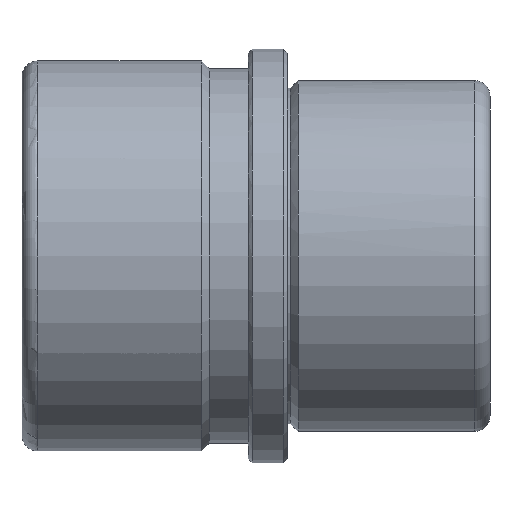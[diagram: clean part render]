
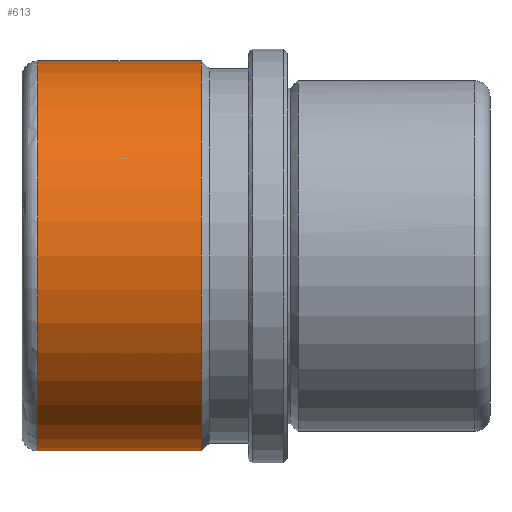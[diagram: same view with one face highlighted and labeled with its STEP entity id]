
A CAD part, front view. The second image highlights one B-rep face of the part: STEP entity #613.
In plain terms, the highlighted cylindrical face has radius 25 mm (diameter 50 mm), a partial arc.
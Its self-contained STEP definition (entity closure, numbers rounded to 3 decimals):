
#398=CARTESIAN_POINT('Line Origine',(26.,0.,25.)) ;
#402=CARTESIAN_POINT('Vertex',(-11.,0.,25.)) ;
#404=CARTESIAN_POINT('Vertex',(-32.,0.,25.)) ;
#418=CARTESIAN_POINT('Vertex',(-11.,0.,-25.)) ;
#421=CARTESIAN_POINT('Line Origine',(26.,0.,-25.)) ;
#425=CARTESIAN_POINT('Vertex',(-32.,0.,-25.)) ;
#576=CARTESIAN_POINT('Axis2P3D Location',(26.,0.,0.)) ;
#581=CARTESIAN_POINT('Axis2P3D Location',(-11.,0.,0.)) ;
#585=CARTESIAN_POINT('Vertex',(-11.,-25.,0.)) ;
#588=CARTESIAN_POINT('Axis2P3D Location',(-11.,0.,0.)) ;
#593=CARTESIAN_POINT('Axis2P3D Location',(-32.,0.,0.)) ;
#597=CARTESIAN_POINT('Vertex',(-32.,-25.,0.)) ;
#600=CARTESIAN_POINT('Axis2P3D Location',(-32.,0.,0.)) ;
#399=DIRECTION('Vector Direction',(-1.,0.,0.)) ;
#422=DIRECTION('Vector Direction',(-1.,0.,0.)) ;
#577=DIRECTION('Axis2P3D Direction',(-1.,-0.,-0.)) ;
#578=DIRECTION('Axis2P3D XDirection',(0.,0.,-1.)) ;
#582=DIRECTION('Axis2P3D Direction',(-1.,-0.,-0.)) ;
#589=DIRECTION('Axis2P3D Direction',(-1.,-0.,-0.)) ;
#594=DIRECTION('Axis2P3D Direction',(-1.,-0.,-0.)) ;
#601=DIRECTION('Axis2P3D Direction',(-1.,-0.,-0.)) ;
#579=AXIS2_PLACEMENT_3D('Cylinder Axis2P3D',#576,#577,#578) ;
#583=AXIS2_PLACEMENT_3D('Circle Axis2P3D',#581,#582,$) ;
#590=AXIS2_PLACEMENT_3D('Circle Axis2P3D',#588,#589,$) ;
#595=AXIS2_PLACEMENT_3D('Circle Axis2P3D',#593,#594,$) ;
#602=AXIS2_PLACEMENT_3D('Circle Axis2P3D',#600,#601,$) ;
#606=ORIENTED_EDGE('',*,*,#427,.T.) ;
#607=ORIENTED_EDGE('',*,*,#587,.F.) ;
#608=ORIENTED_EDGE('',*,*,#592,.F.) ;
#609=ORIENTED_EDGE('',*,*,#406,.T.) ;
#610=ORIENTED_EDGE('',*,*,#599,.T.) ;
#611=ORIENTED_EDGE('',*,*,#604,.T.) ;
#400=VECTOR('Line Direction',#399,1.) ;
#423=VECTOR('Line Direction',#422,1.) ;
#613=ADVANCED_FACE('CF 641 30 x 60',(#612),#580,.T.) ;
#584=CIRCLE('generated circle',#583,25.) ;
#591=CIRCLE('generated circle',#590,25.) ;
#596=CIRCLE('generated circle',#595,25.) ;
#603=CIRCLE('generated circle',#602,25.) ;
#580=CYLINDRICAL_SURFACE('generated cylinder',#579,25.) ;
#406=EDGE_CURVE('',#403,#405,#401,.T.) ;
#427=EDGE_CURVE('',#426,#419,#424,.F.) ;
#587=EDGE_CURVE('',#586,#419,#584,.F.) ;
#592=EDGE_CURVE('',#403,#586,#591,.F.) ;
#599=EDGE_CURVE('',#405,#598,#596,.F.) ;
#604=EDGE_CURVE('',#598,#426,#603,.F.) ;
#605=EDGE_LOOP('',(#606,#607,#608,#609,#610,#611)) ;
#612=FACE_OUTER_BOUND('',#605,.T.) ;
#401=LINE('Line',#398,#400) ;
#424=LINE('Line',#421,#423) ;
#403=VERTEX_POINT('',#402) ;
#405=VERTEX_POINT('',#404) ;
#419=VERTEX_POINT('',#418) ;
#426=VERTEX_POINT('',#425) ;
#586=VERTEX_POINT('',#585) ;
#598=VERTEX_POINT('',#597) ;
